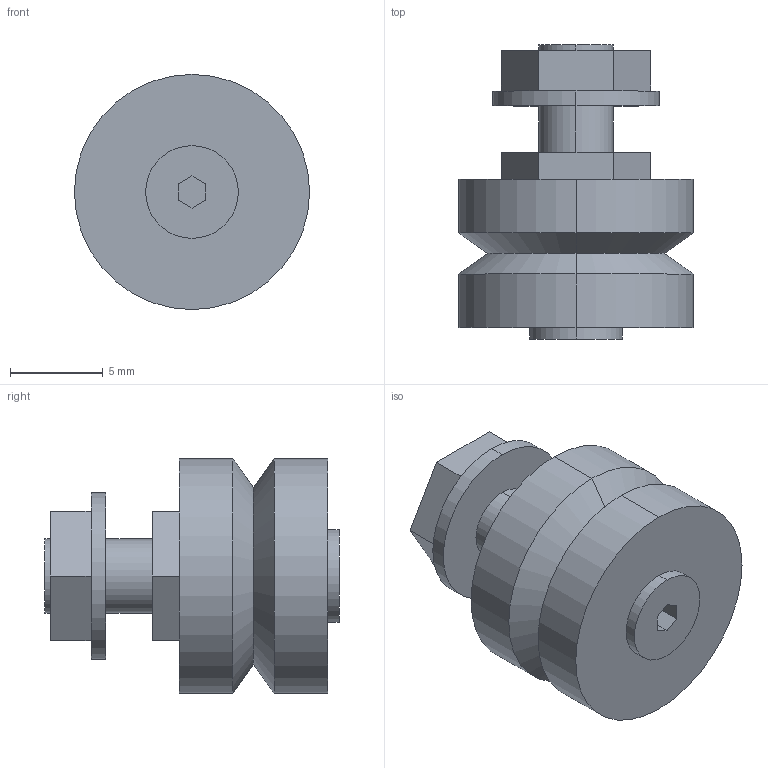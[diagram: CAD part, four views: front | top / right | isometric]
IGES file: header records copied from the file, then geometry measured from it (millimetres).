
Start section: 3D InterOp IGES (Version 21 0 1), Spatial Corp. Copyright (c) 1999-2007.
Global section: file name: RSJ13CNS.igs; native system: Spatial Corp.; preprocessor: 3D InterOp GENERIC/IGES 3.0; author: Noname; organization: Noname; date: 20220627.163056; units: millimetre
Bounding box: 12.7 x 15.9 x 12.7 mm (x, y, z)
Surface area: 888.5 mm2 (no closed solid volume)
Topology: 0 solids, 0 shells, 43 faces, 192 edges, 192 vertices
Faces by surface type: extrusion 27, revolution 16
